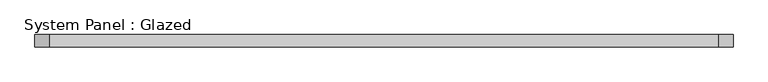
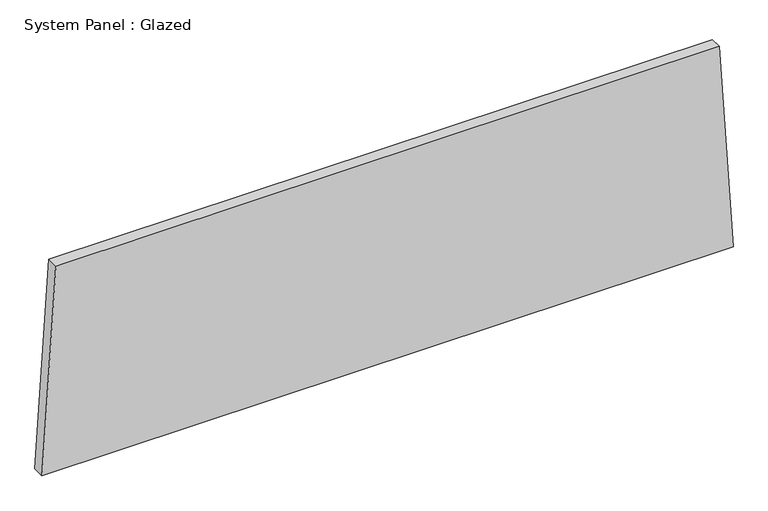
"""IFC4 building model written with IfcOpenShell, lengths in millimetres: plate geometry, System Panel : Glazed."""

from ifc_helpers import new_model, si_unit, frame, origin, place, context, project, spatial, polyline, outline, extrude, source, transform, mapped, element, save


def system_panel_glazed_9094d4f4(model_context):
    return source(origin(), model_context, "Body", "SweptSolid", [
        extrude(outline(polyline([(0.0, -729.6837829), (0.0, 729.6837829), (457.5813622, 700.2186862), (457.5813622, -700.2186862), (0.0, -729.6837829)])), frame((0.0, -44.45, 0.0), z_axis=(0.0, 1.0, 0.0), x_axis=(0.0, 0.0, 1.0)), (0.0, 0.0, 1.0), 25.4),
    ])


if __name__ == "__main__":
    model = new_model("IFC4")
    model_context = context("Model", 3, world=origin())
    ifc_project = project(units=[si_unit("LENGTHUNIT", "METRE", prefix="MILLI")], contexts=[model_context])
    site = spatial("IfcSite", under=ifc_project)
    building = spatial("IfcBuilding", under=site)
    placement = place(None, origin())
    system_panel_glazed_shape = system_panel_glazed_9094d4f4(model_context)
    element("IfcPlate", 1, ObjectType="System Panel : Glazed", at=placement, inside=building, context=model_context, shape_type="MappedRepresentation", body=[
        mapped(system_panel_glazed_shape, transform((0.0, 0.0, 0.0), x_axis=(1.0, 0.0, 0.0), y_axis=(0.0, 1.0, 0.0), z_axis=(0.0, 0.0, 1.0))),
    ])
    save(model, "model.ifc")
